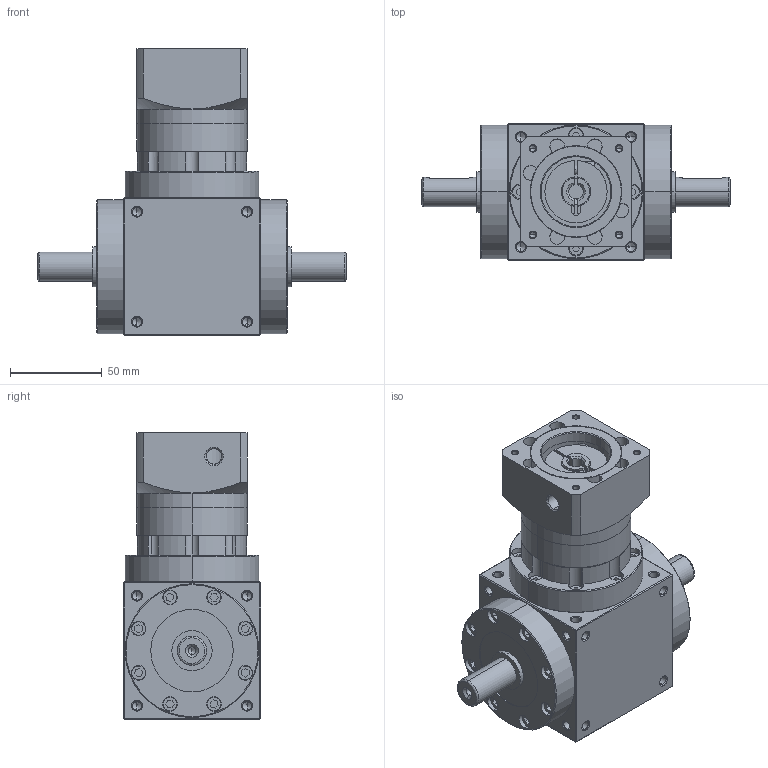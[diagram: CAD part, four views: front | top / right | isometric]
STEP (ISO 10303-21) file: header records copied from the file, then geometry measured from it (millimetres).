
FILE_DESCRIPTION (( 'STEP AP203' ), '1' );
FILE_NAME ('AT075-FL-L2-8-38.1-66.7.STEP', '2025-11-26T09:41:32', ( 'Windows User' ), ( 'P R C' ), 'SwSTEP 2.0', 'SolidWorks 2016', '' );
FILE_SCHEMA (( 'CONFIG_CONTROL_DESIGN' ));
Length unit declared in the file: millimetre
Products named in the file (7): AT75FL-转角箱体-批量-双轴输出; AT75FL-怀堤楊擘-蠶講; AT75FL-单级齿圈; 输入胀套-16; AT75FL-输入法兰-C-38.1-M4-F47.14; 输入轴套-14-8; AT075-FL-L2-8-38.1-66.7
Assembly tree (6 placements, depth 2):
  AT075-FL-L2-8-38.1-66.7
    AT75FL-转角箱体-批量-双轴输出
    AT75FL-怀堤楊擘-蠶講
    AT75FL-单级齿圈
    输入胀套-16
    AT75FL-输入法兰-C-38.1-M4-F47.14
    输入轴套-14-8
Bounding box: 168 x 75 x 156.5 mm (x, y, z)
Volume: 545508.4 mm3; surface area: 136307.5 mm2
Topology: 8 solids, 24 shells, 1680 faces, 4259 edges, 2665 vertices
Faces by surface type: plane 788, cylinder 415, cone 301, bspline 176
Entity records: 57935 total; most frequent: CARTESIAN_POINT 18259, ORIENTED_EDGE 8278, DIRECTION 7605, EDGE_CURVE 4139, VERTEX_POINT 2665, VECTOR 2543, LINE 2543, AXIS2_PLACEMENT_3D 2531
